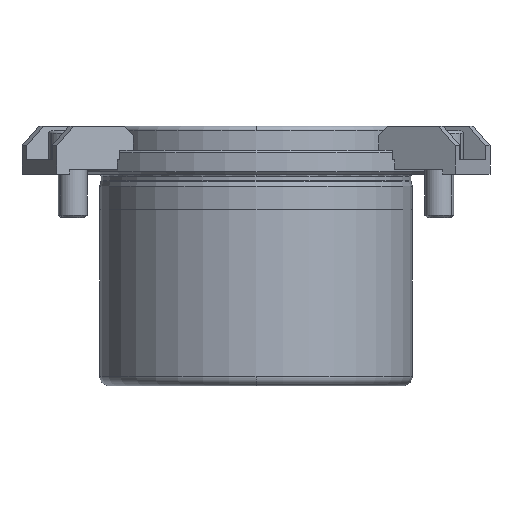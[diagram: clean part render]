
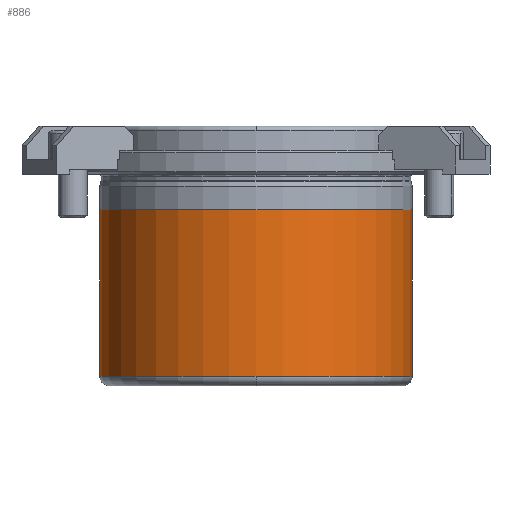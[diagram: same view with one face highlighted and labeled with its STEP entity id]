
A CAD part, front view. The second image highlights one B-rep face of the part: STEP entity #886.
In plain terms, the highlighted cylindrical face has radius 32.494 mm (diameter 64.988 mm), a partial arc.
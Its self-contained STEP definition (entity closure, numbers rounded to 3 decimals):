
#836=CARTESIAN_POINT('',(0.0,0.,-24.7));
#837=DIRECTION('',(0.0,0.,1.0));
#838=DIRECTION('',(1.0,0.0,0.0));
#839=AXIS2_PLACEMENT_3D('',#836,#837,#838);
#840=CYLINDRICAL_SURFACE('',#839,32.494);
#841=CARTESIAN_POINT('',(32.494,0.,-7.4));
#842=VERTEX_POINT('',#841);
#843=CARTESIAN_POINT('',(32.494,0.,-42.0));
#844=VERTEX_POINT('',#843);
#845=CARTESIAN_POINT('',(32.494,0.,-7.4));
#846=DIRECTION('',(0.0,0.0,-1.0));
#847=VECTOR('',#846,34.6);
#848=LINE('',#845,#847);
#849=EDGE_CURVE('',#842,#844,#848,.T.);
#850=ORIENTED_EDGE('',*,*,#849,.F.);
#851=CARTESIAN_POINT('',(-32.494,0.,-7.4));
#852=VERTEX_POINT('',#851);
#853=CARTESIAN_POINT('',(0.0,0.,-7.4));
#854=DIRECTION('',(0.0,0.0,1.0));
#855=DIRECTION('',(1.0,0.0,0.0));
#856=AXIS2_PLACEMENT_3D('',#853,#854,#855);
#857=CIRCLE('',#856,32.494);
#858=EDGE_CURVE('',#852,#842,#857,.T.);
#859=ORIENTED_EDGE('',*,*,#858,.F.);
#860=CARTESIAN_POINT('',(-32.494,0.,-42.0));
#861=VERTEX_POINT('',#860);
#862=CARTESIAN_POINT('',(-32.494,0.,-7.4));
#863=DIRECTION('',(0.0,0.0,-1.0));
#864=VECTOR('',#863,34.6);
#865=LINE('',#862,#864);
#866=EDGE_CURVE('',#852,#861,#865,.T.);
#867=ORIENTED_EDGE('',*,*,#866,.T.);
#868=CARTESIAN_POINT('',(0.0,-32.494,-42.));
#869=VERTEX_POINT('',#868);
#870=CARTESIAN_POINT('',(0.0,0.,-42.0));
#871=DIRECTION('',(0.0,0.0,1.0));
#872=DIRECTION('',(1.0,0.0,0.0));
#873=AXIS2_PLACEMENT_3D('',#870,#871,#872);
#874=CIRCLE('',#873,32.494);
#875=EDGE_CURVE('',#861,#869,#874,.T.);
#876=ORIENTED_EDGE('',*,*,#875,.T.);
#877=CARTESIAN_POINT('',(0.0,0.,-42.0));
#878=DIRECTION('',(0.0,0.0,1.0));
#879=DIRECTION('',(1.0,0.0,0.0));
#880=AXIS2_PLACEMENT_3D('',#877,#878,#879);
#881=CIRCLE('',#880,32.494);
#882=EDGE_CURVE('',#869,#844,#881,.T.);
#883=ORIENTED_EDGE('',*,*,#882,.T.);
#884=EDGE_LOOP('',(#850,#859,#867,#876,#883));
#885=FACE_OUTER_BOUND('',#884,.T.);
#886=ADVANCED_FACE('',(#885),#840,.T.);
